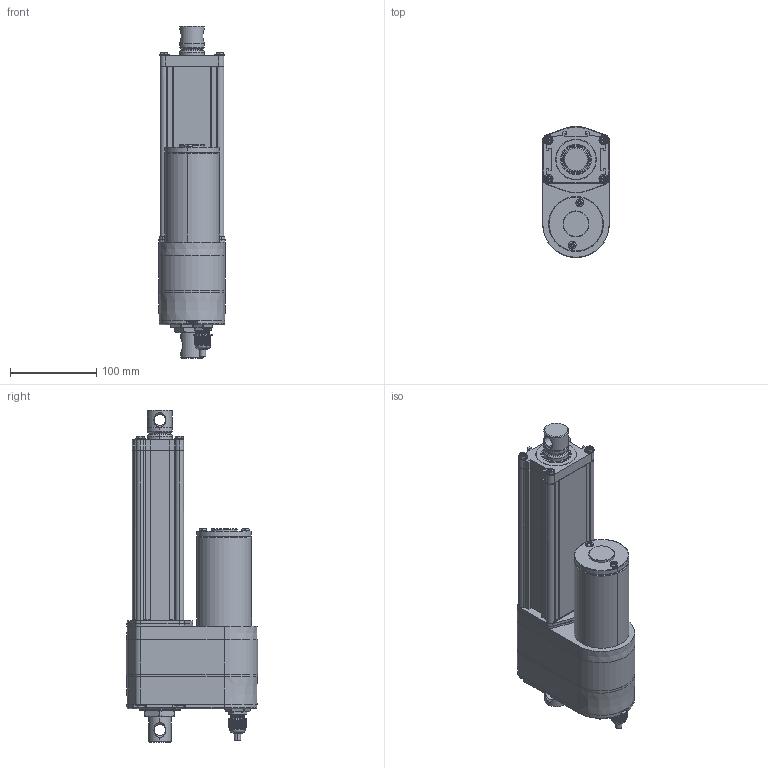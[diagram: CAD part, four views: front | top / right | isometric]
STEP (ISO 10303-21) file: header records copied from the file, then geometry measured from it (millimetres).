
FILE_DESCRIPTION (( 'STEP AP203' ), '1' );
FILE_NAME ('ID12-B-100-POT-IP69K.STEP', '2022-10-19T09:07:58', ( '' ), ( '' ), 'SwSTEP 2.0', 'SolidWorks 2020', '' );
FILE_SCHEMA (( 'CONFIG_CONTROL_DESIGN' ));
Length unit declared in the file: millimetre
Products named in the file (3): ID12-B-2; ID12-B-1; ID12-B-100-POT-IP69K
Assembly tree (2 placements, depth 2):
  ID12-B-100-POT-IP69K
    ID12-B-1
    ID12-B-2
Bounding box: 77.3 x 151.8 x 384.5 mm (x, y, z)
Volume: 2156994.5 mm3; surface area: 225974.7 mm2
Topology: 2 solids, 30 shells, 2557 faces, 6575 edges, 4162 vertices
Faces by surface type: plane 1355, cylinder 773, bspline 163, cone 127, torus 123, sphere 16
Entity records: 87114 total; most frequent: CARTESIAN_POINT 27660, ORIENTED_EDGE 13114, DIRECTION 11536, EDGE_CURVE 6557, VERTEX_POINT 4162, AXIS2_PLACEMENT_3D 4155, LINE 3226, VECTOR 3226
